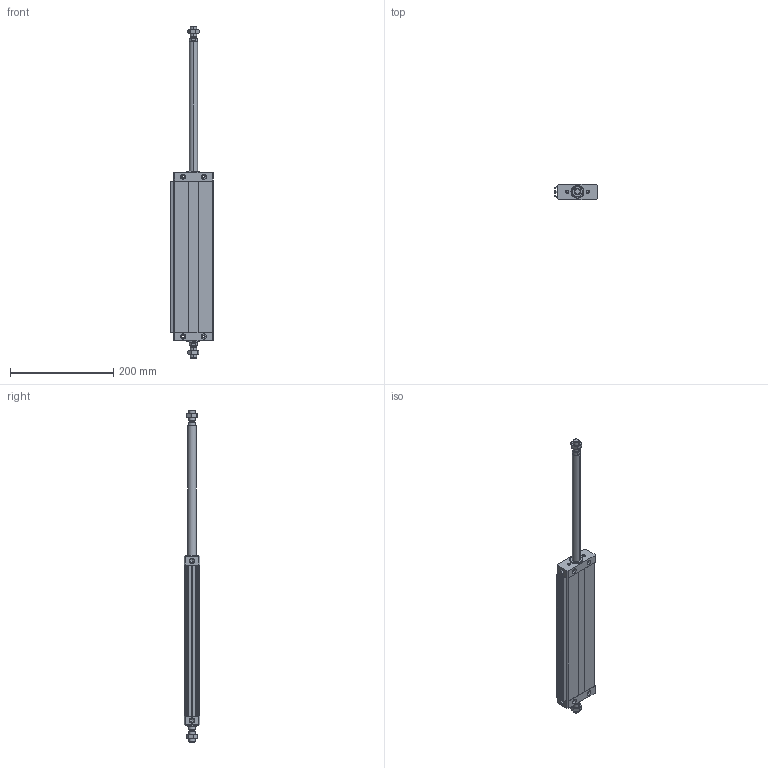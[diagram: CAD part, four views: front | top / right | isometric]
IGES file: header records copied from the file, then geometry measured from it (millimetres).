
Global section: file name: No Iges File Name specified; native system: Autodesk Inventor 2011; preprocessor: AutoDesk Inventor Iges Exporter R2011; author: airolcr1; date: 20101213.153229; units: millimetre
Bounding box: 82.5 x 30 x 642 mm (x, y, z)
Volume: 513413.2 mm3; surface area: 181730.6 mm2
Topology: 6 solids, 6 shells, 276 faces, 652 edges, 396 vertices
Faces by surface type: bspline 110, plane 98, cone 36, cylinder 18, revolution 14
